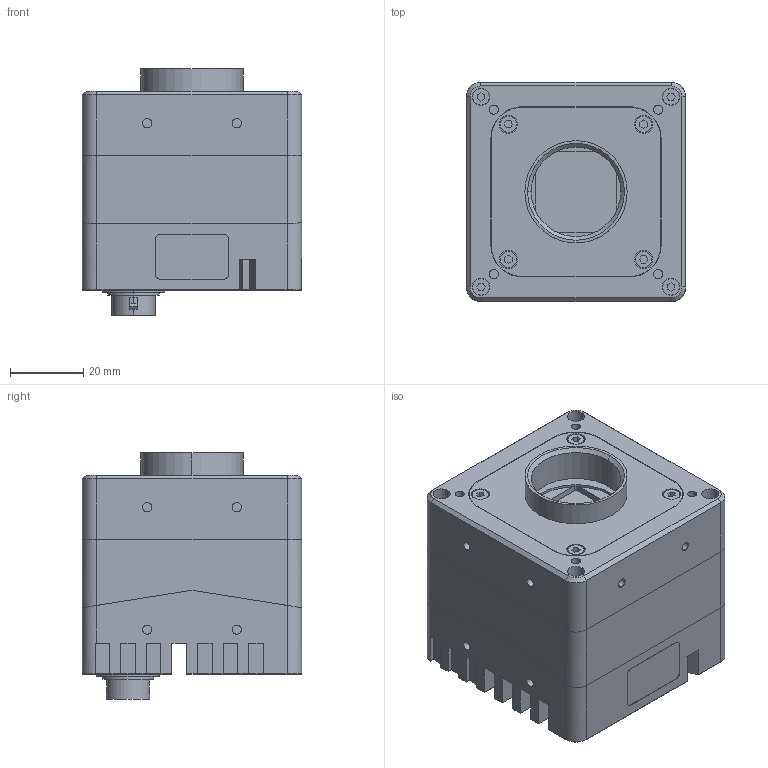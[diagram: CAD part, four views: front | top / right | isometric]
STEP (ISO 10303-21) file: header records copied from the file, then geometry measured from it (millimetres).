
FILE_DESCRIPTION (( 'STEP AP203' ), '1' );
FILE_NAME ('mars_gt_a7_user_s1.0.2.STEP', '2023-09-25T01:50:28', ( '' ), ( '' ), 'SwSTEP 2.0', 'SolidWorks 2016', '' );
FILE_SCHEMA (( 'CONFIG_CONTROL_DESIGN' ));
Length unit declared in the file: millimetre
Products named in the file (1): mars_gt_a7_user_s1.0.2
Bounding box: 60 x 60 x 67.45 mm (x, y, z)
Volume: 175542 mm3; surface area: 57197.4 mm2
Topology: 18 solids, 26 shells, 1477 faces, 3750 edges, 2436 vertices
Faces by surface type: plane 1003, cylinder 399, cone 53, bspline 22
Entity records: 45997 total; most frequent: CARTESIAN_POINT 10069, ORIENTED_EDGE 7500, DIRECTION 7237, EDGE_CURVE 3750, VECTOR 2761, LINE 2761, VERTEX_POINT 2436, AXIS2_PLACEMENT_3D 2238
